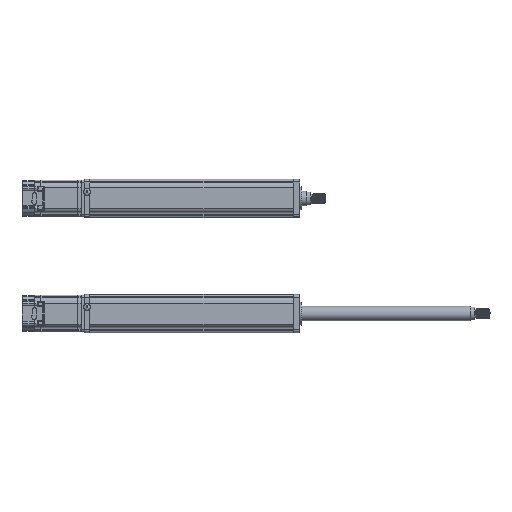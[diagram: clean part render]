
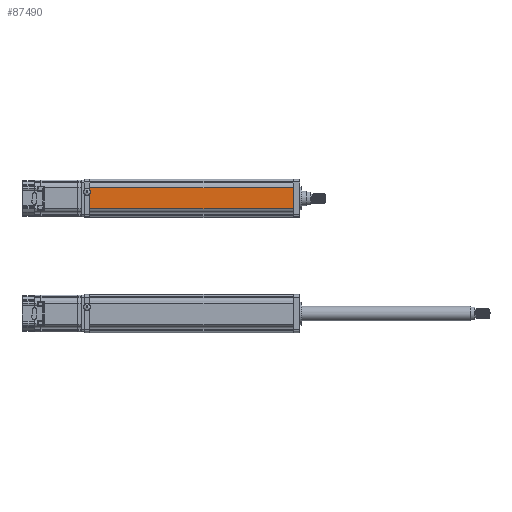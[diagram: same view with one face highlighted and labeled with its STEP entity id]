
A CAD part, top view. The second image highlights one B-rep face of the part: STEP entity #87490.
In plain terms, the highlighted planar face has unit normal (0, 0, 1).
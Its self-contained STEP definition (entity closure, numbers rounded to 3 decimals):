
#85521 = PLANE('',#85522);
#85522 = AXIS2_PLACEMENT_3D('',#85523,#85524,#85525);
#85523 = CARTESIAN_POINT('',(604.,195.885,145.431
    ));
#85524 = DIRECTION('',(-1.,0.,0.));
#85525 = DIRECTION('',(0.,-1.,0.));
#85582 = PLANE('',#85583);
#85583 = AXIS2_PLACEMENT_3D('',#85584,#85585,#85586);
#85584 = CARTESIAN_POINT('',(914.,195.885,145.431
    ));
#85585 = DIRECTION('',(-1.,0.,0.));
#85586 = DIRECTION('',(0.,-1.,0.));
#86191 = VERTEX_POINT('',#86192);
#86192 = CARTESIAN_POINT('',(914.,150.885,203.431)
  );
#86200 = CYLINDRICAL_SURFACE('',#86201,2.5);
#86201 = AXIS2_PLACEMENT_3D('',#86202,#86203,#86204);
#86202 = CARTESIAN_POINT('',(604.,150.885,200.931)
  );
#86203 = DIRECTION('',(-1.,0.,0.));
#86204 = DIRECTION('',(0.,0.,1.));
#86219 = EDGE_CURVE('',#86191,#86220,#86222,.T.);
#86220 = VERTEX_POINT('',#86221);
#86221 = CARTESIAN_POINT('',(604.,150.885,203.431)
  );
#86222 = SURFACE_CURVE('',#86223,(#86227,#86234),.PCURVE_S1.);
#86223 = LINE('',#86224,#86225);
#86224 = CARTESIAN_POINT('',(759.,150.885,203.431)
  );
#86225 = VECTOR('',#86226,1.);
#86226 = DIRECTION('',(-1.,0.,0.));
#86227 = PCURVE('',#86200,#86228);
#86228 = DEFINITIONAL_REPRESENTATION('',(#86229),#86233);
#86229 = LINE('',#86230,#86231);
#86230 = CARTESIAN_POINT('',(6.283,-155.));
#86231 = VECTOR('',#86232,1.);
#86232 = DIRECTION('',(0.,1.));
#86233 = ( GEOMETRIC_REPRESENTATION_CONTEXT(2) 
PARAMETRIC_REPRESENTATION_CONTEXT() REPRESENTATION_CONTEXT('2D SPACE',''
  ) );
#86234 = PCURVE('',#86235,#86240);
#86235 = PLANE('',#86236);
#86236 = AXIS2_PLACEMENT_3D('',#86237,#86238,#86239);
#86237 = CARTESIAN_POINT('',(604.,182.885,203.431)
  );
#86238 = DIRECTION('',(0.,0.,-1.));
#86239 = DIRECTION('',(1.,0.,0.));
#86240 = DEFINITIONAL_REPRESENTATION('',(#86241),#86245);
#86241 = LINE('',#86242,#86243);
#86242 = CARTESIAN_POINT('',(155.,32.));
#86243 = VECTOR('',#86244,1.);
#86244 = DIRECTION('',(-1.,0.));
#86245 = ( GEOMETRIC_REPRESENTATION_CONTEXT(2) 
PARAMETRIC_REPRESENTATION_CONTEXT() REPRESENTATION_CONTEXT('2D SPACE',''
  ) );
#86307 = VERTEX_POINT('',#86308);
#86308 = CARTESIAN_POINT('',(604.,182.885,203.431)
  );
#86316 = CYLINDRICAL_SURFACE('',#86317,2.5);
#86317 = AXIS2_PLACEMENT_3D('',#86318,#86319,#86320);
#86318 = CARTESIAN_POINT('',(914.,182.885,200.931)
  );
#86319 = DIRECTION('',(1.,0.,0.));
#86320 = DIRECTION('',(0.,0.,1.));
#86339 = EDGE_CURVE('',#86307,#86340,#86342,.T.);
#86340 = VERTEX_POINT('',#86341);
#86341 = CARTESIAN_POINT('',(914.,182.885,203.431)
  );
#86342 = SURFACE_CURVE('',#86343,(#86347,#86354),.PCURVE_S1.);
#86343 = LINE('',#86344,#86345);
#86344 = CARTESIAN_POINT('',(759.,182.885,203.431)
  );
#86345 = VECTOR('',#86346,1.);
#86346 = DIRECTION('',(1.,0.,0.));
#86347 = PCURVE('',#86316,#86348);
#86348 = DEFINITIONAL_REPRESENTATION('',(#86349),#86353);
#86349 = LINE('',#86350,#86351);
#86350 = CARTESIAN_POINT('',(6.283,-155.));
#86351 = VECTOR('',#86352,1.);
#86352 = DIRECTION('',(0.,1.));
#86353 = ( GEOMETRIC_REPRESENTATION_CONTEXT(2) 
PARAMETRIC_REPRESENTATION_CONTEXT() REPRESENTATION_CONTEXT('2D SPACE',''
  ) );
#86354 = PCURVE('',#86235,#86355);
#86355 = DEFINITIONAL_REPRESENTATION('',(#86356),#86360);
#86356 = LINE('',#86357,#86358);
#86357 = CARTESIAN_POINT('',(155.,0.));
#86358 = VECTOR('',#86359,1.);
#86359 = DIRECTION('',(1.,0.));
#86360 = ( GEOMETRIC_REPRESENTATION_CONTEXT(2) 
PARAMETRIC_REPRESENTATION_CONTEXT() REPRESENTATION_CONTEXT('2D SPACE',''
  ) );
#86767 = EDGE_CURVE('',#86340,#86191,#86768,.T.);
#86768 = SURFACE_CURVE('',#86769,(#86773,#86780),.PCURVE_S1.);
#86769 = LINE('',#86770,#86771);
#86770 = CARTESIAN_POINT('',(914.,166.885,203.431)
  );
#86771 = VECTOR('',#86772,1.);
#86772 = DIRECTION('',(0.,-1.,0.));
#86773 = PCURVE('',#85582,#86774);
#86774 = DEFINITIONAL_REPRESENTATION('',(#86775),#86779);
#86775 = LINE('',#86776,#86777);
#86776 = CARTESIAN_POINT('',(29.,58.));
#86777 = VECTOR('',#86778,1.);
#86778 = DIRECTION('',(1.,0.));
#86779 = ( GEOMETRIC_REPRESENTATION_CONTEXT(2) 
PARAMETRIC_REPRESENTATION_CONTEXT() REPRESENTATION_CONTEXT('2D SPACE',''
  ) );
#86780 = PCURVE('',#86235,#86781);
#86781 = DEFINITIONAL_REPRESENTATION('',(#86782),#86786);
#86782 = LINE('',#86783,#86784);
#86783 = CARTESIAN_POINT('',(310.,16.));
#86784 = VECTOR('',#86785,1.);
#86785 = DIRECTION('',(0.,1.));
#86786 = ( GEOMETRIC_REPRESENTATION_CONTEXT(2) 
PARAMETRIC_REPRESENTATION_CONTEXT() REPRESENTATION_CONTEXT('2D SPACE',''
  ) );
#87208 = EDGE_CURVE('',#86220,#86307,#87209,.T.);
#87209 = SURFACE_CURVE('',#87210,(#87214,#87221),.PCURVE_S1.);
#87210 = LINE('',#87211,#87212);
#87211 = CARTESIAN_POINT('',(604.,166.885,203.431)
  );
#87212 = VECTOR('',#87213,1.);
#87213 = DIRECTION('',(0.,1.,0.));
#87214 = PCURVE('',#85521,#87215);
#87215 = DEFINITIONAL_REPRESENTATION('',(#87216),#87220);
#87216 = LINE('',#87217,#87218);
#87217 = CARTESIAN_POINT('',(29.,58.));
#87218 = VECTOR('',#87219,1.);
#87219 = DIRECTION('',(-1.,0.));
#87220 = ( GEOMETRIC_REPRESENTATION_CONTEXT(2) 
PARAMETRIC_REPRESENTATION_CONTEXT() REPRESENTATION_CONTEXT('2D SPACE',''
  ) );
#87221 = PCURVE('',#86235,#87222);
#87222 = DEFINITIONAL_REPRESENTATION('',(#87223),#87227);
#87223 = LINE('',#87224,#87225);
#87224 = CARTESIAN_POINT('',(0.,16.));
#87225 = VECTOR('',#87226,1.);
#87226 = DIRECTION('',(0.,-1.));
#87227 = ( GEOMETRIC_REPRESENTATION_CONTEXT(2) 
PARAMETRIC_REPRESENTATION_CONTEXT() REPRESENTATION_CONTEXT('2D SPACE',''
  ) );
#87490 = ADVANCED_FACE('',(#87491),#86235,.F.);
#87491 = FACE_BOUND('',#87492,.T.);
#87492 = EDGE_LOOP('',(#87493,#87494,#87495,#87496));
#87493 = ORIENTED_EDGE('',*,*,#86219,.F.);
#87494 = ORIENTED_EDGE('',*,*,#86767,.F.);
#87495 = ORIENTED_EDGE('',*,*,#86339,.F.);
#87496 = ORIENTED_EDGE('',*,*,#87208,.F.);
